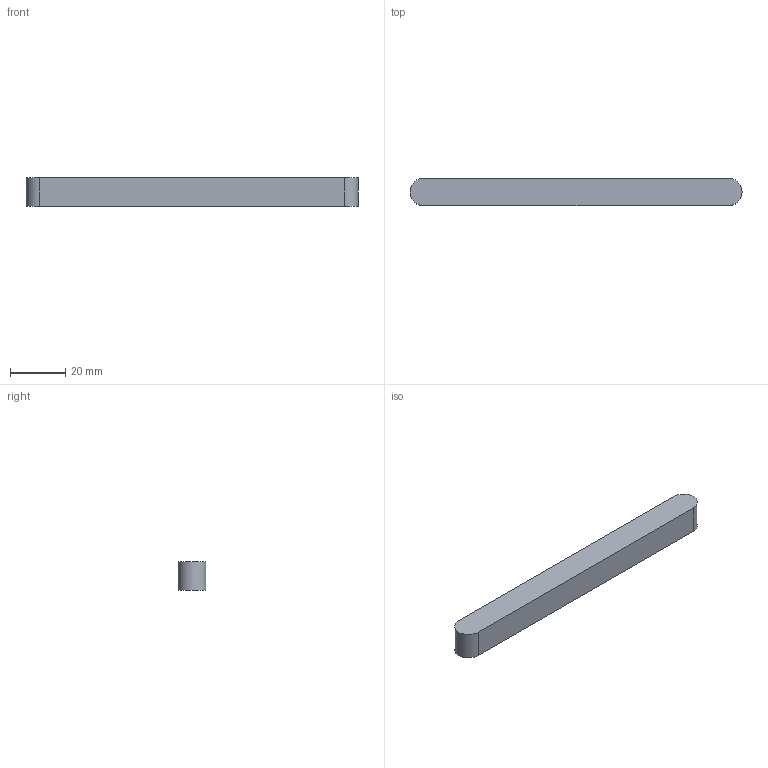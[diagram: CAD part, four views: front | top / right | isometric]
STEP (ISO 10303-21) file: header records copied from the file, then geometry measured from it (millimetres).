
FILE_DESCRIPTION(('Open CASCADE Model'),'2;1');
FILE_NAME('Open CASCADE Shape Model','2026-10-21T18:19:08',('Author'),( 'Open CASCADE'),'Open CASCADE STEP processor 8.0','build123d', 'Unknown');
FILE_SCHEMA(('AUTOMOTIVE_DESIGN { 1 0 10303 214 1 1 1 1 }'));
Length unit declared in the file: millimetre
Products named in the file (1): COMPOUND
Bounding box: 119.85 x 10 x 10.3 mm (x, y, z)
Volume: 12123.5 mm3; surface area: 4940.6 mm2
Topology: 1 solids, 1 shells, 6 faces, 12 edges, 8 vertices
Faces by surface type: plane 4, cylinder 2
Entity records: 338 total; most frequent: CARTESIAN_POINT 75, DIRECTION 50, LINE 28, VECTOR 28, ORIENTED_EDGE 24, PCURVE 24, DEFINITIONAL_REPRESENTATION 24, EDGE_CURVE 12
